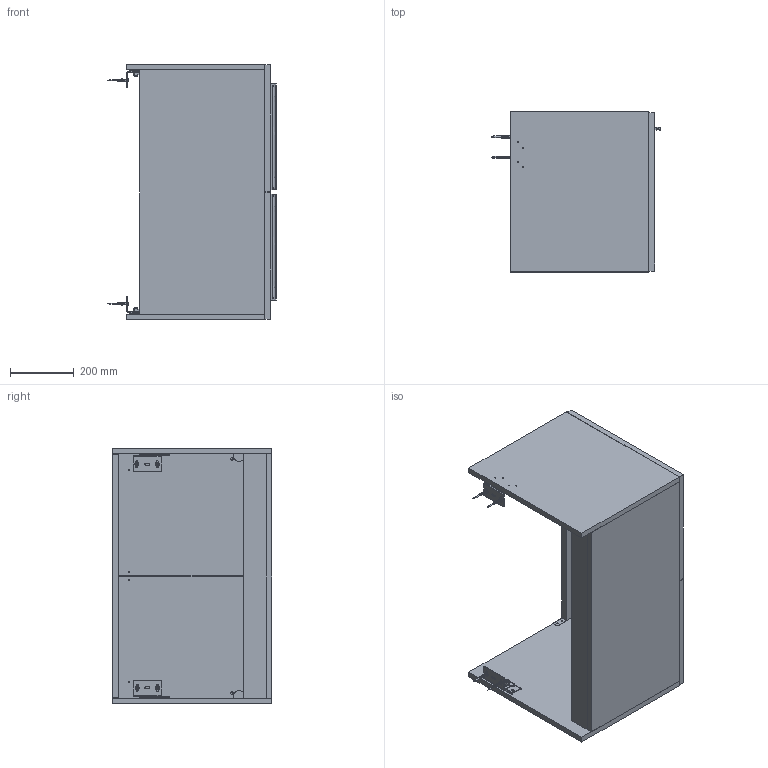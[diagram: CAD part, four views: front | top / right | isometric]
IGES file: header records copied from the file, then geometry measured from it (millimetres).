
Global section: file name: Serenity Kapaklı Lavabo Dolabı montaj,2; native system: 2HAutodesk Inventor 2024; preprocessor: unknown; author: pc19; date: 20250717.103024; units: millimetre
Bounding box: 527.85 x 500 x 800 mm (x, y, z)
Volume: 21557053.6 mm3; surface area: 2746898.6 mm2
Topology: 33 solids, 33 shells, 2804 faces, 6866 edges, 4068 vertices
Faces by surface type: bspline 2804
